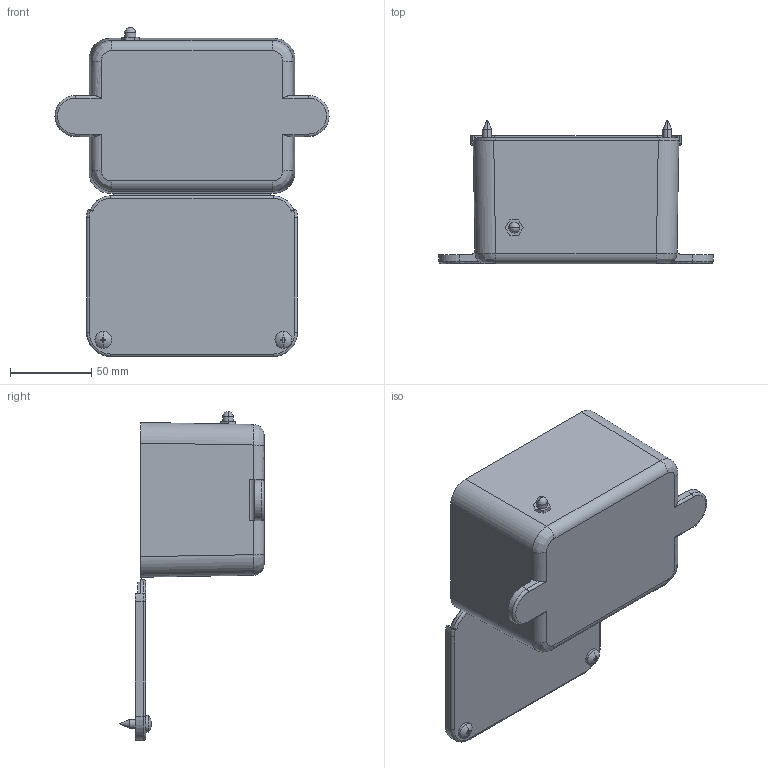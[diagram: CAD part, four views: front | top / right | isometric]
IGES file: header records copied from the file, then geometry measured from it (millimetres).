
Start section:  PTC IGES file: 562872-en-c.igs
Global section: file name: 562872-en-c.igs; native system: Creo Parametric by PTC Inc.; preprocessor: 2019030; author: qusrh3; organization: Unknown; date: 20191231.212326; units: inch
Bounding box: 169.16 x 88.9 x 203.1 mm (x, y, z)
Surface area: 110543.3 mm2 (no closed solid volume)
Topology: 0 solids, 0 shells, 118 faces, 618 edges, 612 vertices
Faces by surface type: revolution 71, bspline 47
